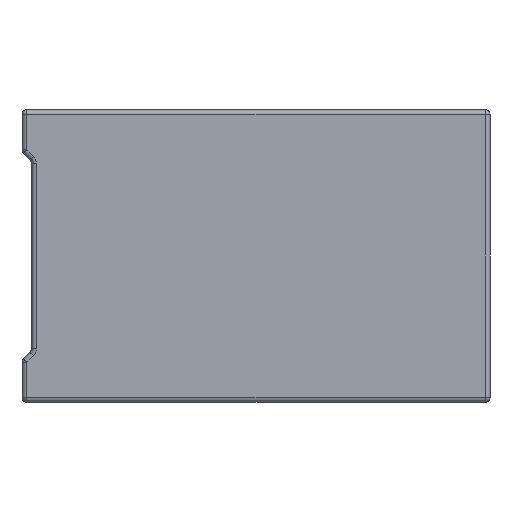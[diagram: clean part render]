
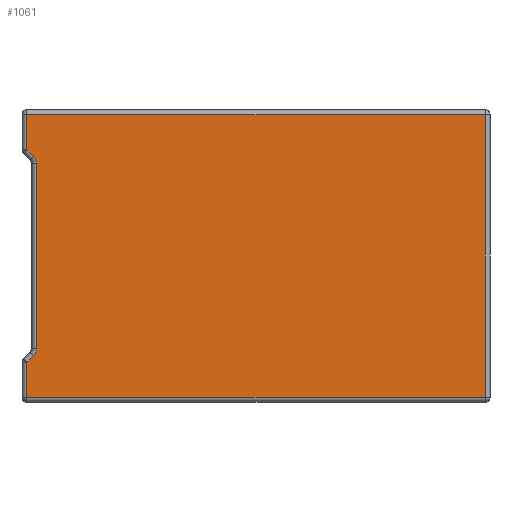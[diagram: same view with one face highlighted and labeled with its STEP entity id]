
A CAD part, left-side view. The second image highlights one B-rep face of the part: STEP entity #1061.
In plain terms, the highlighted planar face has unit normal (-1, 0, 0).
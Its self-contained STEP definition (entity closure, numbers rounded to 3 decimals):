
#58=DIRECTION('',(0.,-0.707,-0.707));
#59=VECTOR('',#58,0.4);
#60=CARTESIAN_POINT('',(0.,19.791,4.536));
#61=LINE('',#60,#59);
#62=DIRECTION('',(0.,0.,-1.));
#63=VECTOR('',#62,1.505);
#64=CARTESIAN_POINT('',(0.,19.791,6.041));
#65=LINE('',#64,#63);
#66=DIRECTION('',(0.,1.,0.));
#67=VECTOR('',#66,19.583);
#68=CARTESIAN_POINT('',(0.,0.209,6.041));
#69=LINE('',#68,#67);
#70=DIRECTION('',(0.,0.,1.));
#71=VECTOR('',#70,12.083);
#72=CARTESIAN_POINT('',(0.,0.209,-6.041));
#73=LINE('',#72,#71);
#74=DIRECTION('',(0.,-1.,0.));
#75=VECTOR('',#74,19.583);
#76=CARTESIAN_POINT('',(0.,19.791,-6.041));
#77=LINE('',#76,#75);
#78=DIRECTION('',(0.,0.,-1.));
#79=VECTOR('',#78,1.505);
#80=CARTESIAN_POINT('',(0.,19.791,-4.536));
#81=LINE('',#80,#79);
#82=DIRECTION('',(0.,0.707,-0.707));
#83=VECTOR('',#82,0.4);
#84=CARTESIAN_POINT('',(0.,19.508,-4.254));
#85=LINE('',#84,#83);
#86=CARTESIAN_POINT('',(0.,19.391,-3.971));
#87=CARTESIAN_POINT('',(0.,19.391,-3.993));
#88=CARTESIAN_POINT('',(0.,19.395,-4.036));
#89=CARTESIAN_POINT('',(0.,19.409,-4.093));
#90=CARTESIAN_POINT('',(0.,19.431,-4.148));
#91=CARTESIAN_POINT('',(0.,19.462,-4.201));
#92=CARTESIAN_POINT('',(0.,19.491,-4.237));
#93=CARTESIAN_POINT('',(0.,19.508,-4.254));
#95=DIRECTION('',(0.,0.,-1.));
#96=VECTOR('',#95,7.942);
#97=CARTESIAN_POINT('',(0.,19.391,3.971));
#98=LINE('',#97,#96);
#99=CARTESIAN_POINT('',(0.,19.508,4.254));
#100=CARTESIAN_POINT('',(0.,19.493,4.238));
#101=CARTESIAN_POINT('',(0.,19.465,4.205));
#102=CARTESIAN_POINT('',(0.,19.434,4.154));
#103=CARTESIAN_POINT('',(0.,19.411,4.1));
#104=CARTESIAN_POINT('',(0.,19.396,4.041));
#105=CARTESIAN_POINT('',(0.,19.391,3.995));
#106=CARTESIAN_POINT('',(0.,19.391,3.971));
#990=CARTESIAN_POINT('',(0.,19.791,4.536));
#991=CARTESIAN_POINT('',(0.,19.508,4.254));
#992=VERTEX_POINT('',#990);
#993=VERTEX_POINT('',#991);
#996=VERTEX_POINT('',#106);
#998=CARTESIAN_POINT('',(0.,19.391,-3.971));
#999=VERTEX_POINT('',#998);
#1002=VERTEX_POINT('',#93);
#1004=CARTESIAN_POINT('',(0.,19.791,-4.536));
#1005=VERTEX_POINT('',#1004);
#1010=CARTESIAN_POINT('',(0.,19.791,-6.041));
#1011=VERTEX_POINT('',#1010);
#1016=CARTESIAN_POINT('',(0.,0.209,-6.041));
#1017=VERTEX_POINT('',#1016);
#1022=CARTESIAN_POINT('',(0.,0.209,6.041));
#1023=VERTEX_POINT('',#1022);
#1028=CARTESIAN_POINT('',(0.,19.791,6.041));
#1029=VERTEX_POINT('',#1028);
#1034=CARTESIAN_POINT('',(0.,0.,0.));
#1035=DIRECTION('',(1.,0.,0.));
#1036=DIRECTION('',(0.,0.,-1.));
#1037=AXIS2_PLACEMENT_3D('',#1034,#1035,#1036);
#1038=PLANE('',#1037);
#1040=ORIENTED_EDGE('',*,*,#1039,.F.);
#1042=ORIENTED_EDGE('',*,*,#1041,.F.);
#1044=ORIENTED_EDGE('',*,*,#1043,.F.);
#1046=ORIENTED_EDGE('',*,*,#1045,.F.);
#1048=ORIENTED_EDGE('',*,*,#1047,.F.);
#1050=ORIENTED_EDGE('',*,*,#1049,.F.);
#1052=ORIENTED_EDGE('',*,*,#1051,.F.);
#1054=ORIENTED_EDGE('',*,*,#1053,.F.);
#1056=ORIENTED_EDGE('',*,*,#1055,.F.);
#1058=ORIENTED_EDGE('',*,*,#1057,.F.);
#1059=EDGE_LOOP('',(#1040,#1042,#1044,#1046,#1048,#1050,#1052,#1054,#1056,
#1058));
#1060=FACE_OUTER_BOUND('',#1059,.F.);
#1061=ADVANCED_FACE('',(#1060),#1038,.F.);
#94=B_SPLINE_CURVE_WITH_KNOTS('',3,(#86,#87,#88,#89,#90,#91,#92,#93),
.UNSPECIFIED.,.F.,.F.,(4,1,1,1,1,4),(0.,0.2,0.4,0.6,0.8,1.),
.UNSPECIFIED.);
#107=B_SPLINE_CURVE_WITH_KNOTS('',3,(#99,#100,#101,#102,#103,#104,#105,#106),
.UNSPECIFIED.,.F.,.F.,(4,1,1,1,1,4),(0.,0.2,0.4,0.6,0.8,1.),
.UNSPECIFIED.);
#1039=EDGE_CURVE('',#992,#993,#61,.T.);
#1041=EDGE_CURVE('',#1029,#992,#65,.T.);
#1043=EDGE_CURVE('',#1023,#1029,#69,.T.);
#1045=EDGE_CURVE('',#1017,#1023,#73,.T.);
#1047=EDGE_CURVE('',#1011,#1017,#77,.T.);
#1049=EDGE_CURVE('',#1005,#1011,#81,.T.);
#1051=EDGE_CURVE('',#1002,#1005,#85,.T.);
#1053=EDGE_CURVE('',#999,#1002,#94,.T.);
#1055=EDGE_CURVE('',#996,#999,#98,.T.);
#1057=EDGE_CURVE('',#993,#996,#107,.T.);
